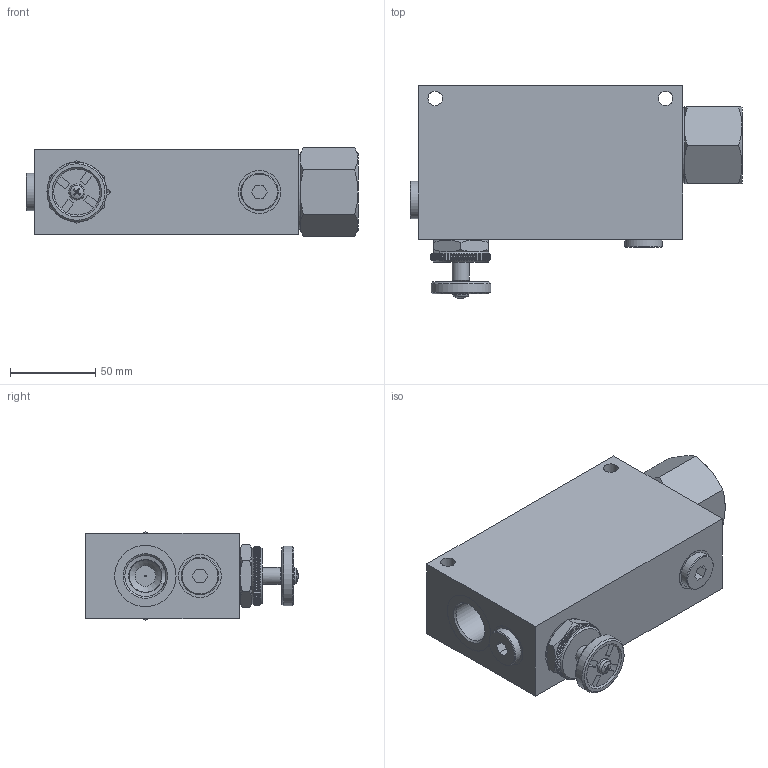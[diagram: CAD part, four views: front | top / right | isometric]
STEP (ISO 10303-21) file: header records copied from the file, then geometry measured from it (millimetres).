
FILE_DESCRIPTION(/* description */ (''),/* implementation_level */ '2;1');
FILE_NAME(/* name */ 'C:\Users\fabio.radici.LUEN\Desktop\X Laura\004-007-0X0.stp',/* time_stamp */ '2017-04-18T08:57:05+02:00',/* author */ ('Radici'),/* organization */ (''),/* preprocessor_version */ 'ST-DEVELOPER v16.1',/* originating_system */ 'Autodesk Inventor 2016',/* authorisation */ '');
FILE_SCHEMA (('CONFIG_CONTROL_DESIGN'));
Length unit declared in the file: millimetre
Products named in the file (1): 004-007-0X0_Shrinkwrap_1
Bounding box: 194.6 x 124.67 x 51.96 mm (x, y, z)
Volume: 662660.8 mm3; surface area: 107955.2 mm2
Topology: 3 solids, 3 shells, 500 faces, 1334 edges, 878 vertices
Faces by surface type: plane 321, cylinder 90, cone 74, torus 8, bspline 6, sphere 1
Full cylindrical faces by diameter (mm): 0.5 x1, 3 x3, 4.917 x1, 6.5 x12, 7 x1, 7.8 x1, 7.9 x1, 8.5 x2, 8.917 x1, 9.3 x1, 9.5 x4, 10 x1, 10.9 x2, 11 x1, 11.5 x2, 13 x1, 14.95 x3, 15.388 x2, 15.8 x2, 19 x3, 19.011 x2, 19.5 x1, 22 x2, 22.5 x1, 24 x1, 24.117 x4, 24.5 x1, 25 x2, 25.5 x3, 28.5 x2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
Entity records: 16324 total; most frequent: CARTESIAN_POINT 5654, ORIENTED_EDGE 2274, DIRECTION 1747, EDGE_CURVE 1136, VERTEX_POINT 809, EDGE_LOOP 709, AXIS2_PLACEMENT_3D 702, STYLED_ITEM 502
